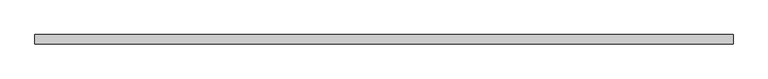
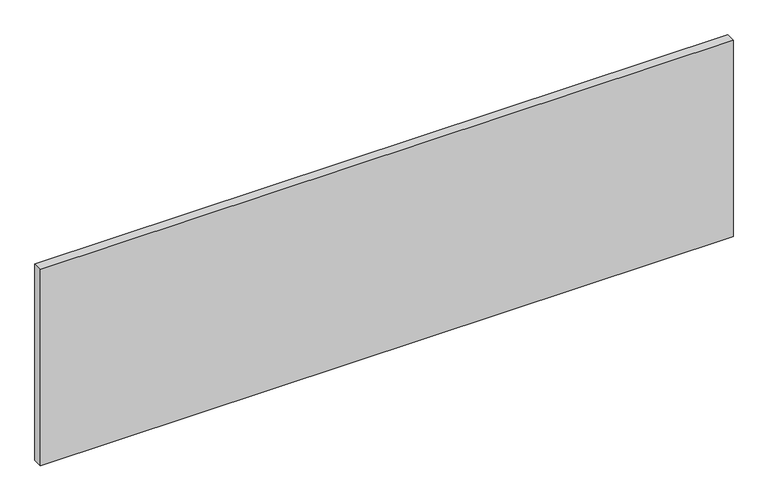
"""IFC4 building model written with IfcOpenShell, lengths in millimetres: proxy geometry, GM_Панель фасадная : Декоративные перемычки."""

from ifc_helpers import new_model, si_unit, origin, origin_with_axes, place, context, project, spatial, polyline, outline, extrude, source, transform, mapped, element, save


def generic_models_1286251f(model_context):
    return source(origin(), model_context, "Body", "SweptSolid", [
        extrude(outline(polyline([(-1375.0, 125.0), (125.0, 125.0), (125.0, 105.0), (-1375.0, 105.0), (-1375.0, 125.0)])), origin_with_axes(), (0.0, 0.0, 1.0), 450.0),
    ])


if __name__ == "__main__":
    model = new_model("IFC4")
    model_context = context("Model", 3, world=origin())
    ifc_project = project(units=[si_unit("LENGTHUNIT", "METRE", prefix="MILLI")], contexts=[model_context])
    site = spatial("IfcSite", under=ifc_project)
    building = spatial("IfcBuilding", under=site)
    placement = place(None, origin())
    generic_models_shape = generic_models_1286251f(model_context)
    element("IfcBuildingElementProxy", 1, Name="GM_Панель фасадная : Декоративные перемычки", ObjectType="GM_Панель фасадная : Декоративные перемычки", at=placement, inside=building, context=model_context, shape_type="MappedRepresentation", body=[
        mapped(generic_models_shape, transform((0.0, 0.0, 0.0), x_axis=(1.0, 0.0, 0.0), y_axis=(0.0, 1.0, 0.0), z_axis=(0.0, 0.0, 1.0))),
    ])
    save(model, "model.ifc")
